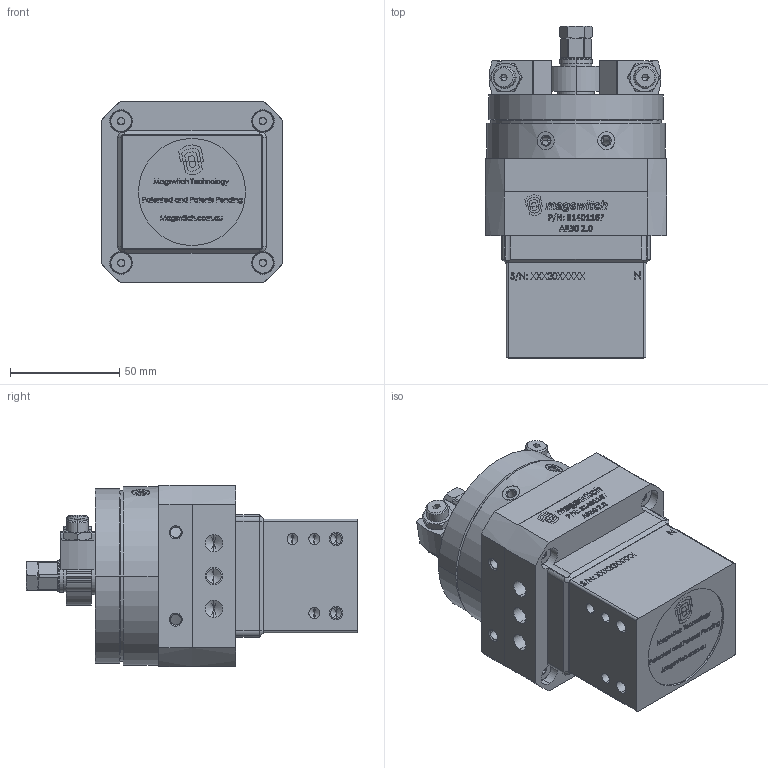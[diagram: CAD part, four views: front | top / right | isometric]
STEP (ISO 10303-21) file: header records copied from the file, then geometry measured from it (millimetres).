
FILE_DESCRIPTION (( 'STEP AP214' ), '1' );
FILE_NAME ('81401167_p.STEP', '2020-03-02T23:36:57', ( '' ), ( '' ), 'SwSTEP 2.0', 'SolidWorks 2018', '' );
FILE_SCHEMA (( 'AUTOMOTIVE_DESIGN' ));
Length unit declared in the file: millimetre
Products named in the file (1): 81401167_p
Bounding box: 83.3 x 152.1 x 83.3 mm (x, y, z)
Volume: 576766.5 mm3; surface area: 75175.5 mm2
Topology: 13 solids, 17 shells, 4646 faces, 11394 edges, 7457 vertices
Faces by surface type: plane 3261, bspline 736, cylinder 355, cone 274, torus 20
Entity records: 220486 total; most frequent: CARTESIAN_POINT 64840, ORIENTED_EDGE 22680, DIRECTION 19041, EDGE_CURVE 11340, VECTOR 7867, LINE 7867, VERTEX_POINT 7457, AXIS2_PLACEMENT_3D 5587
